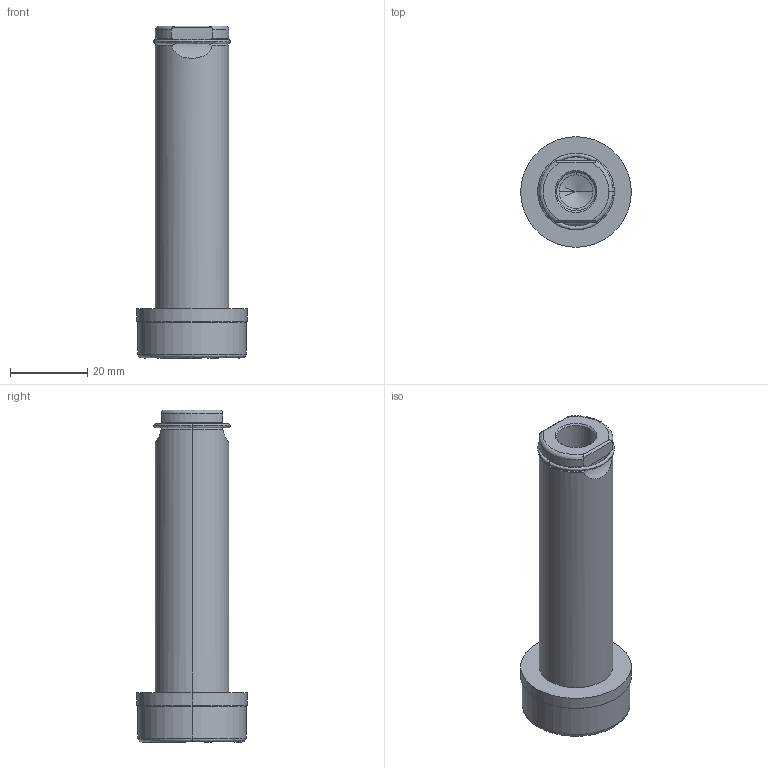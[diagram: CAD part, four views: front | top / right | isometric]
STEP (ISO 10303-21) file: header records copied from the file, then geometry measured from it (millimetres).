
FILE_DESCRIPTION (( 'STEP AP214' ), '1' );
FILE_NAME ('GK75-M-XXX-GuidePin.STEP', '2020-10-21T11:44:18', ( '' ), ( '' ), 'SwSTEP 2.0', 'SolidWorks 2017', '' );
FILE_SCHEMA (( 'AUTOMOTIVE_DESIGN' ));
Length unit declared in the file: inch
Products named in the file (4): GK75-M-XXX-GuidePin; GK75-DampeningWasher; GK75-Cring
Assembly tree (3 placements, depth 2):
  GK75-M-XXX-GuidePin
    GK75-M-XXX-GuidePin
    GK75-DampeningWasher
    GK75-Cring
Bounding box: 28.57 x 28.57 x 85.72 mm (x, y, z)
Volume: 26334.7 mm3; surface area: 8771.8 mm2
Topology: 3 solids, 3 shells, 52 faces, 125 edges, 77 vertices
Faces by surface type: cylinder 20, bspline 17, plane 9, cone 6
Entity records: 2272 total; most frequent: CARTESIAN_POINT 802, ORIENTED_EDGE 246, DIRECTION 236, EDGE_CURVE 123, AXIS2_PLACEMENT_3D 101, VERTEX_POINT 77, CIRCLE 60, EDGE_LOOP 56
